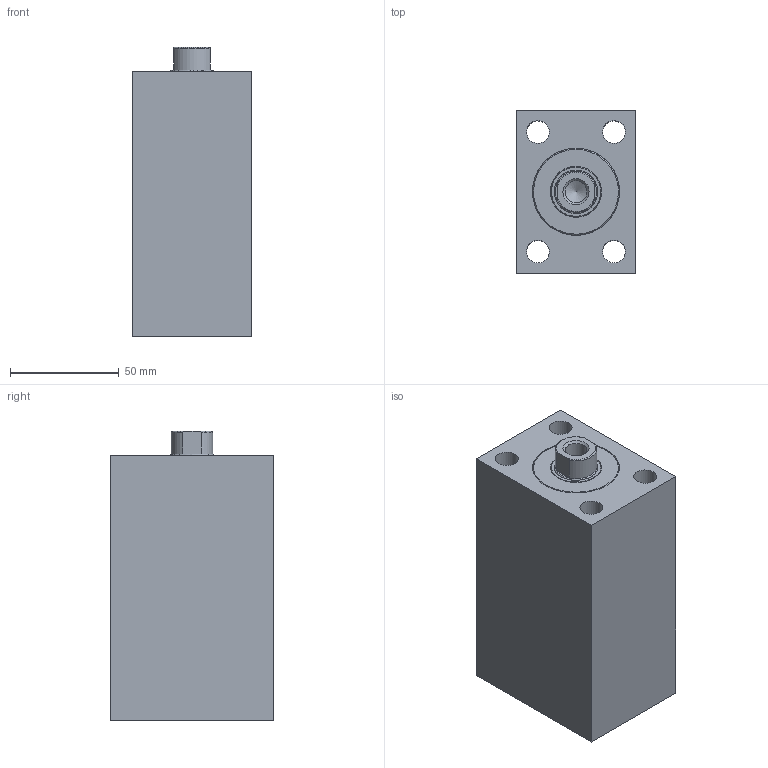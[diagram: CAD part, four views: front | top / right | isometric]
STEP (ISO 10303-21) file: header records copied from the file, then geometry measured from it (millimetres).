
FILE_DESCRIPTION( ( 'STEP AP203' ), '1' );
FILE_NAME( 'C:/Users/SAYKO.ltd/Desktop/SBZ100/02/SBZ100-32/SBZ100.32__FORM_02_STROKE_50__H2_58_POS_0_.stp', ' ', ( ' ' ), ( ' ' ), 'PSStep 15.0.47', 'PARTsolutions', ' ' );
FILE_SCHEMA( ( 'CONFIG_CONTROL_DESIGN' ) );
Length unit declared in the file: millimetre
Products named in the file (5): SBZ100.32  FORM=02 STROKE=50 (H2=58 POS=0); HI_SBZ10032  FORM=02 STROKE=50 H2=58 -C; HI_SBZ10032  FORM=02 STROKE=50-R; HI_SBZ100.32-C; HI_SBZ100.32-S
Assembly tree (4 placements, depth 2):
  SBZ100.32  FORM=02 STROKE=50 (H2=58 POS=0)
    HI_SBZ10032  FORM=02 STROKE=50 H2=58 -C
    HI_SBZ10032  FORM=02 STROKE=50-R
    HI_SBZ100.32-C
    HI_SBZ100.32-S
Bounding box: 55 x 75 x 133 mm (x, y, z)
Volume: 426649.4 mm3; surface area: 89526.5 mm2
Topology: 4 solids, 4 shells, 66 faces, 130 edges, 85 vertices
Faces by surface type: plane 31, cylinder 28, cone 4, torus 3
Full cylindrical faces by diameter (mm): 3 x2, 10.106 x1, 10.5 x4, 11.445 x2, 16 x2, 18 x4, 20 x4, 23.5 x1, 28 x2, 32 x2, 40 x2
Entity records: 3599 total; most frequent: CARTESIAN_POINT 2369, ORIENTED_EDGE 176, DIRECTION 158, EDGE_LOOP 128, FACE_OUTER_BOUND 93, EDGE_CURVE 88, VERTEX_POINT 77, B_SPLINE_CURVE_WITH_KNOTS 72
